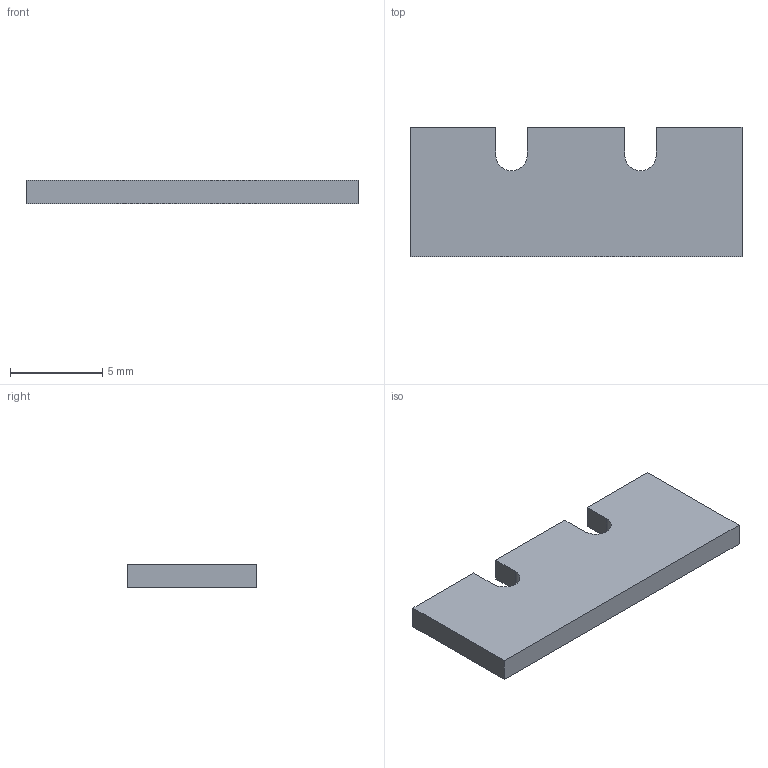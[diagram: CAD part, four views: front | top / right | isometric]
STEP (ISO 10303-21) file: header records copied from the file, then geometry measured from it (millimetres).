
FILE_DESCRIPTION(('Open CASCADE Model'),'2;1');
FILE_NAME('Open CASCADE Shape Model','2026-10-30T11:48:03',('Author'),( 'Open CASCADE'),'Open CASCADE STEP processor 7.9','Open CASCADE 7.9' ,'Unknown');
FILE_SCHEMA(('AUTOMOTIVE_DESIGN { 1 0 10303 214 1 1 1 1 }'));
Length unit declared in the file: millimetre
Products named in the file (1): Open CASCADE STEP translator 7.9 4
Bounding box: 18 x 7 x 1.25 mm (x, y, z)
Volume: 148.3 mm3; surface area: 309.7 mm2
Topology: 1 solids, 1 shells, 14 faces, 36 edges, 24 vertices
Faces by surface type: plane 12, cylinder 2
Entity records: 890 total; most frequent: CARTESIAN_POINT 195, DIRECTION 114, LINE 76, VECTOR 76, ORIENTED_EDGE 72, PCURVE 72, DEFINITIONAL_REPRESENTATION 72, EDGE_CURVE 36
